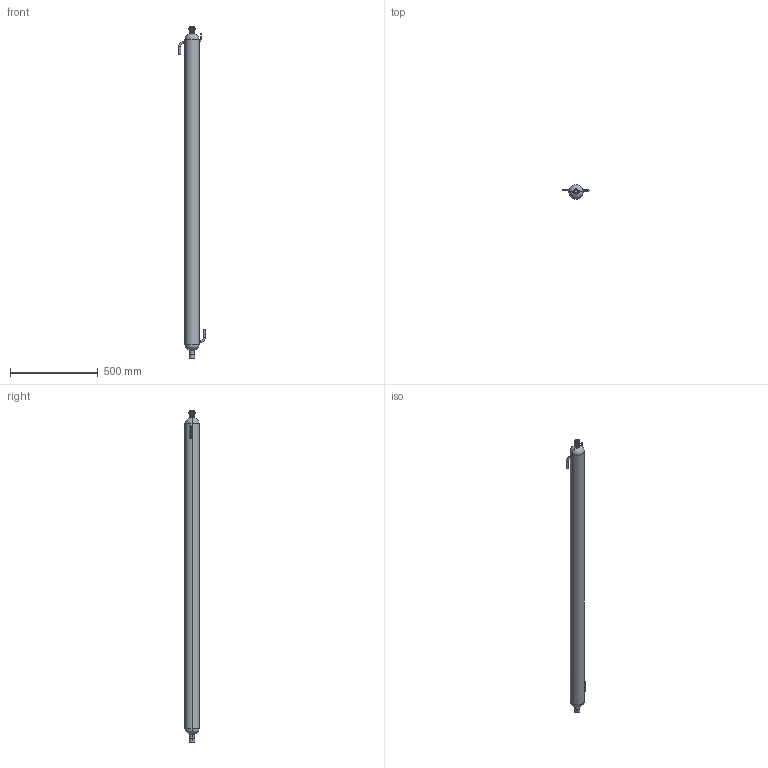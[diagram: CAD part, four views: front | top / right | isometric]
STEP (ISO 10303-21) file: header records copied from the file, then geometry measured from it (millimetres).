
FILE_DESCRIPTION (( 'STEP AP203' ), '1' );
FILE_NAME ('150W-1890-80蚾饜极.STEP', '2024-03-06T08:47:58', ( 'Microwin10' ), ( '' ), 'SwSTEP 2.0', 'SolidWorks 2020', '' );
FILE_SCHEMA (( 'CONFIG_CONTROL_DESIGN' ));
Length unit declared in the file: millimetre
Products named in the file (3): 150W-1890-80蚾饜极; 苤錨璃; 150俓-1890-80
Assembly tree (2 placements, depth 2):
  150W-1890-80蚾饜极
    150俓-1890-80
    苤錨璃
Bounding box: 150 x 80 x 1890 mm (x, y, z)
Volume: 9022831.1 mm3; surface area: 476344.3 mm2
Topology: 3 solids, 3 shells, 428 faces, 1188 edges, 732 vertices
Faces by surface type: cylinder 238, plane 94, bspline 60, torus 20, cone 16
Entity records: 56438 total; most frequent: CARTESIAN_POINT 47092, ORIENTED_EDGE 2368, DIRECTION 1428, EDGE_CURVE 1184, VERTEX_POINT 732, AXIS2_PLACEMENT_3D 537, EDGE_LOOP 456, ADVANCED_FACE 428
